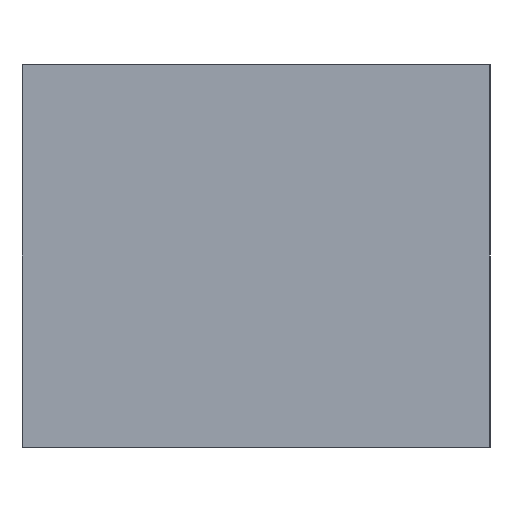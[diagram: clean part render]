
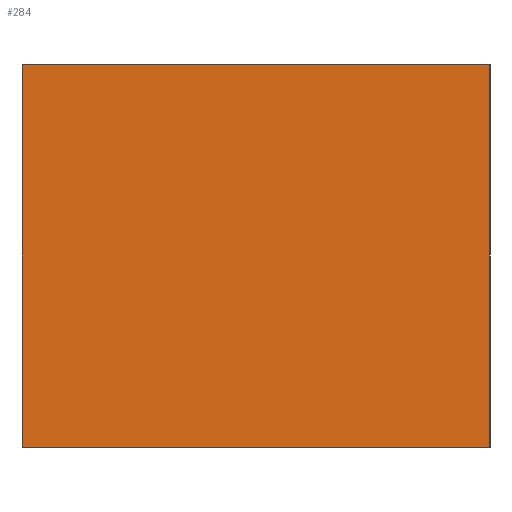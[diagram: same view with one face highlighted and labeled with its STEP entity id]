
A CAD part, left-side view. The second image highlights one B-rep face of the part: STEP entity #284.
In plain terms, the highlighted planar face has unit normal (-1, 0, 0).
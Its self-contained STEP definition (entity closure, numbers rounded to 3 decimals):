
#21 = EDGE_CURVE('',#22,#24,#26,.T.);
#22 = VERTEX_POINT('',#23);
#23 = CARTESIAN_POINT('',(-160.,-110.,0.));
#24 = VERTEX_POINT('',#25);
#25 = CARTESIAN_POINT('',(-160.,-110.,180.));
#26 = SURFACE_CURVE('',#27,(#31,#43),.PCURVE_S1.);
#27 = LINE('',#28,#29);
#28 = CARTESIAN_POINT('',(-160.,-110.,0.));
#29 = VECTOR('',#30,1.);
#30 = DIRECTION('',(0.,0.,1.));
#31 = PCURVE('',#32,#37);
#32 = PLANE('',#33);
#33 = AXIS2_PLACEMENT_3D('',#34,#35,#36);
#34 = CARTESIAN_POINT('',(-160.,-110.,0.));
#35 = DIRECTION('',(0.,1.,0.));
#36 = DIRECTION('',(1.,0.,0.));
#37 = DEFINITIONAL_REPRESENTATION('',(#38),#42);
#38 = LINE('',#39,#40);
#39 = CARTESIAN_POINT('',(0.,0.));
#40 = VECTOR('',#41,1.);
#41 = DIRECTION('',(0.,-1.));
#42 = ( GEOMETRIC_REPRESENTATION_CONTEXT(2) 
PARAMETRIC_REPRESENTATION_CONTEXT() REPRESENTATION_CONTEXT('2D SPACE',''
  ) );
#43 = PCURVE('',#44,#49);
#44 = PLANE('',#45);
#45 = AXIS2_PLACEMENT_3D('',#46,#47,#48);
#46 = CARTESIAN_POINT('',(-160.,110.,0.));
#47 = DIRECTION('',(1.,0.,-0.));
#48 = DIRECTION('',(0.,-1.,0.));
#49 = DEFINITIONAL_REPRESENTATION('',(#50),#54);
#50 = LINE('',#51,#52);
#51 = CARTESIAN_POINT('',(220.,0.));
#52 = VECTOR('',#53,1.);
#53 = DIRECTION('',(0.,-1.));
#54 = ( GEOMETRIC_REPRESENTATION_CONTEXT(2) 
PARAMETRIC_REPRESENTATION_CONTEXT() REPRESENTATION_CONTEXT('2D SPACE',''
  ) );
#72 = PLANE('',#73);
#73 = AXIS2_PLACEMENT_3D('',#74,#75,#76);
#74 = CARTESIAN_POINT('',(0.,0.,180.));
#75 = DIRECTION('',(0.,0.,1.));
#76 = DIRECTION('',(1.,0.,-0.));
#126 = PLANE('',#127);
#127 = AXIS2_PLACEMENT_3D('',#128,#129,#130);
#128 = CARTESIAN_POINT('',(0.,0.,0.));
#129 = DIRECTION('',(0.,0.,1.));
#130 = DIRECTION('',(1.,0.,-0.));
#181 = PLANE('',#182);
#182 = AXIS2_PLACEMENT_3D('',#183,#184,#185);
#183 = CARTESIAN_POINT('',(160.,110.,0.));
#184 = DIRECTION('',(0.,-1.,0.));
#185 = DIRECTION('',(-1.,0.,0.));
#219 = VERTEX_POINT('',#220);
#220 = CARTESIAN_POINT('',(-160.,110.,180.));
#241 = EDGE_CURVE('',#242,#219,#244,.T.);
#242 = VERTEX_POINT('',#243);
#243 = CARTESIAN_POINT('',(-160.,110.,0.));
#244 = SURFACE_CURVE('',#245,(#249,#256),.PCURVE_S1.);
#245 = LINE('',#246,#247);
#246 = CARTESIAN_POINT('',(-160.,110.,0.));
#247 = VECTOR('',#248,1.);
#248 = DIRECTION('',(0.,0.,1.));
#249 = PCURVE('',#181,#250);
#250 = DEFINITIONAL_REPRESENTATION('',(#251),#255);
#251 = LINE('',#252,#253);
#252 = CARTESIAN_POINT('',(320.,0.));
#253 = VECTOR('',#254,1.);
#254 = DIRECTION('',(0.,-1.));
#255 = ( GEOMETRIC_REPRESENTATION_CONTEXT(2) 
PARAMETRIC_REPRESENTATION_CONTEXT() REPRESENTATION_CONTEXT('2D SPACE',''
  ) );
#256 = PCURVE('',#44,#257);
#257 = DEFINITIONAL_REPRESENTATION('',(#258),#262);
#258 = LINE('',#259,#260);
#259 = CARTESIAN_POINT('',(0.,0.));
#260 = VECTOR('',#261,1.);
#261 = DIRECTION('',(0.,-1.));
#262 = ( GEOMETRIC_REPRESENTATION_CONTEXT(2) 
PARAMETRIC_REPRESENTATION_CONTEXT() REPRESENTATION_CONTEXT('2D SPACE',''
  ) );
#284 = ADVANCED_FACE('',(#285),#44,.F.);
#285 = FACE_BOUND('',#286,.F.);
#286 = EDGE_LOOP('',(#287,#288,#309,#310));
#287 = ORIENTED_EDGE('',*,*,#241,.T.);
#288 = ORIENTED_EDGE('',*,*,#289,.T.);
#289 = EDGE_CURVE('',#219,#24,#290,.T.);
#290 = SURFACE_CURVE('',#291,(#295,#302),.PCURVE_S1.);
#291 = LINE('',#292,#293);
#292 = CARTESIAN_POINT('',(-160.,110.,180.));
#293 = VECTOR('',#294,1.);
#294 = DIRECTION('',(0.,-1.,0.));
#295 = PCURVE('',#44,#296);
#296 = DEFINITIONAL_REPRESENTATION('',(#297),#301);
#297 = LINE('',#298,#299);
#298 = CARTESIAN_POINT('',(0.,-180.));
#299 = VECTOR('',#300,1.);
#300 = DIRECTION('',(1.,0.));
#301 = ( GEOMETRIC_REPRESENTATION_CONTEXT(2) 
PARAMETRIC_REPRESENTATION_CONTEXT() REPRESENTATION_CONTEXT('2D SPACE',''
  ) );
#302 = PCURVE('',#72,#303);
#303 = DEFINITIONAL_REPRESENTATION('',(#304),#308);
#304 = LINE('',#305,#306);
#305 = CARTESIAN_POINT('',(-160.,110.));
#306 = VECTOR('',#307,1.);
#307 = DIRECTION('',(0.,-1.));
#308 = ( GEOMETRIC_REPRESENTATION_CONTEXT(2) 
PARAMETRIC_REPRESENTATION_CONTEXT() REPRESENTATION_CONTEXT('2D SPACE',''
  ) );
#309 = ORIENTED_EDGE('',*,*,#21,.F.);
#310 = ORIENTED_EDGE('',*,*,#311,.F.);
#311 = EDGE_CURVE('',#242,#22,#312,.T.);
#312 = SURFACE_CURVE('',#313,(#317,#324),.PCURVE_S1.);
#313 = LINE('',#314,#315);
#314 = CARTESIAN_POINT('',(-160.,110.,0.));
#315 = VECTOR('',#316,1.);
#316 = DIRECTION('',(0.,-1.,0.));
#317 = PCURVE('',#44,#318);
#318 = DEFINITIONAL_REPRESENTATION('',(#319),#323);
#319 = LINE('',#320,#321);
#320 = CARTESIAN_POINT('',(0.,0.));
#321 = VECTOR('',#322,1.);
#322 = DIRECTION('',(1.,0.));
#323 = ( GEOMETRIC_REPRESENTATION_CONTEXT(2) 
PARAMETRIC_REPRESENTATION_CONTEXT() REPRESENTATION_CONTEXT('2D SPACE',''
  ) );
#324 = PCURVE('',#126,#325);
#325 = DEFINITIONAL_REPRESENTATION('',(#326),#330);
#326 = LINE('',#327,#328);
#327 = CARTESIAN_POINT('',(-160.,110.));
#328 = VECTOR('',#329,1.);
#329 = DIRECTION('',(0.,-1.));
#330 = ( GEOMETRIC_REPRESENTATION_CONTEXT(2) 
PARAMETRIC_REPRESENTATION_CONTEXT() REPRESENTATION_CONTEXT('2D SPACE',''
  ) );
